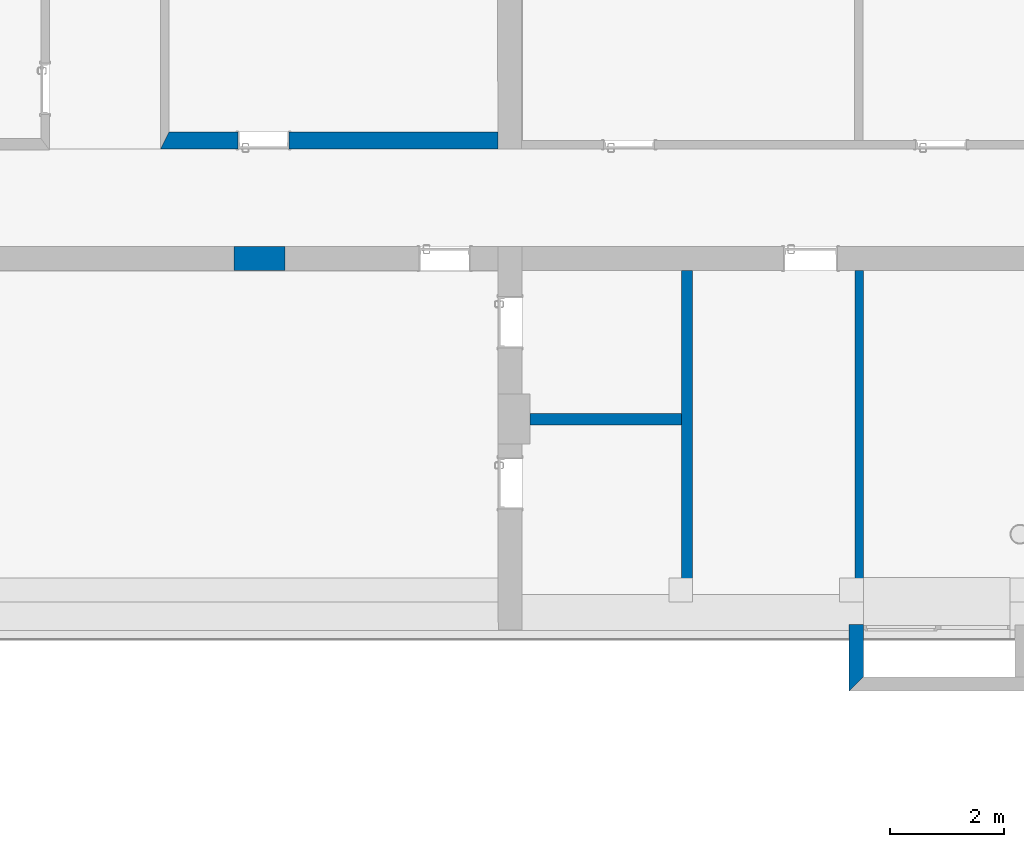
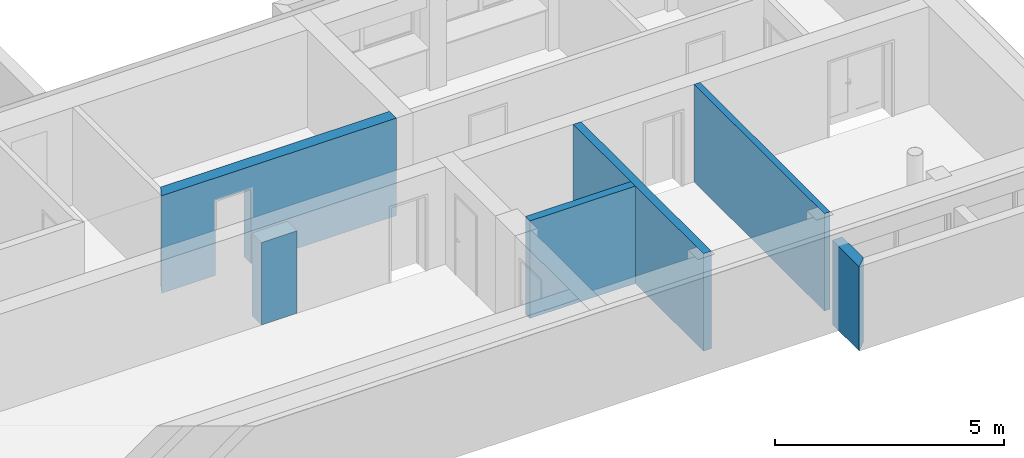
# One storey, part 16 of 127: 6 walls, 2 openings.
"""IFC2X3 building model written with IfcOpenShell, lengths in millimetres."""

from ifc_helpers import new_model, entity, si_unit, converted_unit, derived_unit, money_unit, direction, frame, origin_with_axes, origin_2d_with_axis, place, context, subcontext, project, spatial, polyline, rectangle, outline, extrude, material, layer, layer_set, layer_usage, type_object, element, save


model = new_model("IFC2X3")

# Units and contexts
model_context = context("Model", 3, precision=1e-05, world=origin_with_axes(), true_north=direction((0.0, 1.0)))
body_context = subcontext(model_context, "Body", "Model", "MODEL_VIEW")
ifc_project = project(units=[si_unit("LENGTHUNIT", "METRE", prefix="MILLI"), si_unit("AREAUNIT", "SQUARE_METRE"), si_unit("VOLUMEUNIT", "CUBIC_METRE"), converted_unit("PLANEANGLEUNIT", "DEGREE", entity("IfcPlaneAngleMeasure", 0.0174532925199), si_unit("PLANEANGLEUNIT", "RADIAN"), dimensions=[0, 0, 0, 0, 0, 0, 0]), si_unit("SOLIDANGLEUNIT", "STERADIAN"), money_unit("EUR"), converted_unit("TIMEUNIT", "Year", entity("IfcTimeMeasure", 31556926.0), si_unit("TIMEUNIT", "SECOND"), dimensions=[0, 0, 1, 0, 0, 0, 0]), si_unit("MASSUNIT", "GRAM", prefix="KILO"), si_unit("THERMODYNAMICTEMPERATUREUNIT", "DEGREE_CELSIUS"), si_unit("LUMINOUSINTENSITYUNIT", "LUMEN"), si_unit("ENERGYUNIT", "JOULE", prefix="MEGA"), derived_unit("THERMALCONDUCTANCEUNIT", [(si_unit("POWERUNIT", "WATT"), 1), (si_unit("LENGTHUNIT", "METRE"), -1), (si_unit("THERMODYNAMICTEMPERATUREUNIT", "KELVIN"), -1)]), derived_unit("SPECIFICHEATCAPACITYUNIT", [(si_unit("ENERGYUNIT", "JOULE"), 1), (si_unit("MASSUNIT", "GRAM", prefix="KILO"), -1), (si_unit("THERMODYNAMICTEMPERATUREUNIT", "KELVIN"), -1)]), derived_unit("MASSDENSITYUNIT", [(si_unit("MASSUNIT", "GRAM", prefix="KILO"), 1), (si_unit("VOLUMEUNIT", "CUBIC_METRE"), -1)])], contexts=[model_context])

# Site, building, storey
site_placement = place(None, origin_with_axes())
site = spatial("IfcSite", under=ifc_project, at=site_placement, Name="Site", CompositionType="ELEMENT")
building_placement = place(site_placement, origin_with_axes())
building = spatial("IfcBuilding", under=site, at=building_placement, Name="Building", CompositionType="ELEMENT")
storey_placement = place(building_placement, origin_with_axes())
storey = spatial("IfcBuildingStorey", under=building, at=storey_placement, Name="1 KORRUS", CompositionType="ELEMENT", Elevation=0.0)

# Wall, openings
ifc_material_1 = material(Name="Kivi -Ol.Olev Konstruktsioon")
ifc_layer_1 = layer(ifc_material_1, 300.0, ventilated="UNKNOWN")
ifc_layer_set_1 = layer_set([ifc_layer_1], Name="ol.olev ss 300")
ifc_layer_usage_1 = layer_usage(ifc_layer_set_1, "AXIS2", "POSITIVE", -300.0)
wall_type_1 = type_object("IfcWallType", Name="SW - 022", PredefinedType="NOTDEFINED")
wall_1_placement = place(storey_placement, frame((87732.1709145, 42721.226444, 0.0), z_axis=(0.0, 0.0, 1.0), x_axis=(-1.0, 0.0, 0.0)))
wall_1 = element("IfcWallStandardCase", 1, at=wall_1_placement, inside=storey, type_object=wall_type_1, material=ifc_layer_usage_1, Name="ol.olev ss 300", context=body_context, shape_type="SweptSolid", body=[
    extrude(outline(polyline([(0.365352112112, -300.0), (5777.23782502, -300.0), (5927.23782502, 0.0), (4.59364173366e-05, 0.0), (0.365352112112, -300.0)])), origin_with_axes(), (0.0, 0.0, 1.0), 2600.0),
])
opening_1_placement = place(wall_1_placement, frame((4117.90650266, 0.0, 0.0), z_axis=(0.0, 0.0, 1.0), x_axis=(1.0, 0.0, 0.0)))
element("IfcOpeningElement", 2, at=opening_1_placement, cuts=wall_1, Name="Siseuks * Door 22", context=body_context, shape_type="SweptSolid", body=[
    extrude(rectangle(XDim=900.0, YDim=2000.0, at=origin_2d_with_axis()), frame((0.0, -300.0, 1000.0), z_axis=(0.0, -1.0, 0.0), x_axis=(-1.0, 0.0, 0.0)), (0.0, 0.0, -1.0), 900.0),
    extrude(rectangle(XDim=974.0, YDim=2037.0, at=origin_2d_with_axis()), frame((0.0, -300.0, 1018.5), z_axis=(0.0, -1.0, 0.0), x_axis=(-1.0, 0.0, 0.0)), (0.0, 0.0, 1.0), 300.0),
    extrude(rectangle(XDim=974.0, YDim=2037.0, at=origin_2d_with_axis()), frame((0.0, 0.0, 1018.5), z_axis=(0.0, 1.0, 0.0), x_axis=(-1.0, 0.0, 0.0)), (0.0, 0.0, 1.0), 300.0),
])
opening_2_placement = place(wall_1_placement, frame((6904.13265274, 0.0, 0.0), z_axis=(0.0, 0.0, 1.0), x_axis=(1.0, 0.0, 0.0)))
element("IfcOpeningElement", 3, at=opening_2_placement, cuts=wall_1, Name="Background;  Objekti nimi: Simple Door Opening", context=body_context, shape_type="SweptSolid", body=[
    extrude(rectangle(XDim=1954.37892373, YDim=2100.0, at=origin_2d_with_axis()), frame((0.0, 0.0, 1050.0), z_axis=(0.0, -1.0, 0.0), x_axis=(1.0, 0.0, 0.0)), (0.0, 0.0, -1.0), 300.0),
    extrude(rectangle(XDim=1954.37892373, YDim=2100.0, at=origin_2d_with_axis()), frame((0.0, 0.0, 1050.0), z_axis=(0.0, 1.0, 0.0), x_axis=(1.0, 0.0, 0.0)), (0.0, 0.0, -1.0), 300.0),
])

# Walls
ifc_material_2 = material(Name="Kivi -  Uus Konstruktsioon")
ifc_layer_2 = layer(ifc_material_2, 420.0, ventilated="UNKNOWN")
ifc_layer_set_2 = layer_set([ifc_layer_2], Name="uus kinni ehitav sein 420")
ifc_layer_usage_2 = layer_usage(ifc_layer_set_2, "AXIS2", "POSITIVE", 0.0)
wall_type_2 = type_object("IfcWallType", Name="FIBO", PredefinedType="NOTDEFINED")
wall_2_placement = place(storey_placement, frame((83092.2238233, 40583.0649281, 0.0), z_axis=(0.0, 0.0, 1.0), x_axis=(1.0, 0.0, 0.0)))
element("IfcWallStandardCase", 4, at=wall_2_placement, inside=storey, type_object=wall_type_2, material=ifc_layer_usage_2, Name="uus kinni ehitav sein 420", context=body_context, shape_type="SweptSolid", body=[
    extrude(outline(polyline([(0.0, 0.0), (900.0, 0.0), (900.0, 420.0), (0.0, 420.0), (0.0, 0.0)])), origin_with_axes(), (0.0, 0.0, 1.0), 2200.0),
])
ifc_layer_3 = layer(ifc_material_1, 150.0, ventilated="UNKNOWN")
ifc_layer_set_3 = layer_set([ifc_layer_3], Name="ol.olev ss 150")
ifc_layer_usage_3 = layer_usage(ifc_layer_set_3, "AXIS2", "NEGATIVE", 0.0)
wall_type_3 = type_object("IfcWallType", Name="SW - 036", PredefinedType="NOTDEFINED")
wall_3_placement = place(storey_placement, frame((94157.3527847, 41003.0649281, 0.0), z_axis=(0.0, 0.0, 1.0), x_axis=(0.0, -1.0, 0.0)))
element("IfcWallStandardCase", 5, at=wall_3_placement, inside=storey, type_object=wall_type_3, material=ifc_layer_usage_3, Name="ol.olev ss 150", context=body_context, shape_type="SweptSolid", body=[
    extrude(outline(polyline([(420.0, -150.0), (6110.97869474, -150.0), (6110.96848071, 0.0), (420.0, 0.0), (420.0, -150.0)])), origin_with_axes(), (0.0, 0.0, 1.0), 2600.0),
])
ifc_layer_4 = layer(ifc_material_1, 200.0, ventilated="UNKNOWN")
ifc_layer_set_4 = layer_set([ifc_layer_4], Name="ol.olev ss 200")
ifc_layer_usage_4 = layer_usage(ifc_layer_set_4, "AXIS2", "NEGATIVE", 0.0)
wall_4_placement = place(storey_placement, frame((91157.3527847, 41003.0649281, 0.0), z_axis=(0.0, 0.0, 1.0), x_axis=(0.0, -1.0, 0.0)))
element("IfcWallStandardCase", 6, at=wall_4_placement, inside=storey, type_object=wall_type_3, material=ifc_layer_usage_4, Name="ol.olev ss 200", context=body_context, shape_type="SweptSolid", body=[
    extrude(outline(polyline([(420.0, -200.0), (6111.18637996, -200.0), (6111.17276126, 0.0), (420.0, 0.0), (420.0, -200.0)])), origin_with_axes(), (0.0, 0.0, 1.0), 2600.0),
])
ifc_layer_usage_5 = layer_usage(ifc_layer_set_4, "AXIS2", "POSITIVE", 0.0)
wall_5_placement = place(storey_placement, frame((91157.3527847, 38067.6226794, 0.0), z_axis=(0.0, 0.0, 1.0), x_axis=(-1.0, 1.08545813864e-08, 0.0)))
element("IfcWallStandardCase", 7, at=wall_5_placement, inside=storey, type_object=wall_type_3, material=ifc_layer_usage_5, Name="ol.olev ss 200", context=body_context, shape_type="SweptSolid", body=[
    extrude(outline(polyline([(200.0, 0.0), (2859.93250831, 0.0), (2859.93250611, 200.0), (199.999997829, 200.0), (200.0, 0.0)])), origin_with_axes(), (0.0, 0.0, 1.0), 2600.0),
])
ifc_material_3 = material(Name="Kivi - Ol.Olev Konstruktsioon")
ifc_layer_5 = layer(ifc_material_3, 250.0, ventilated="UNKNOWN")
ifc_layer_set_5 = layer_set([ifc_layer_5], Name="Ol.olve tugimüür 250")
ifc_layer_usage_6 = layer_usage(ifc_layer_set_5, "AXIS2", "POSITIVE", -250.0)
wall_type_4 = type_object("IfcWallType", Name="SW - 029", PredefinedType="NOTDEFINED")
wall_6_placement = place(storey_placement, frame((94157.3458046, 34364.608995, 0.0), z_axis=(0.0, 0.0, 1.0), x_axis=(6.80935165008e-05, -0.999999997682, 0.0)))
element("IfcWallStandardCase", 8, at=wall_6_placement, inside=storey, type_object=wall_type_4, material=ifc_layer_usage_6, Name="Ol.olve tugimüür 250", context=body_context, shape_type="SweptSolid", body=[
    extrude(outline(polyline([(0.0, -250.0), (1172.51254928, -250.0), (922.512549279, 0.0), (0.0, 0.0), (0.0, -250.0)])), origin_with_axes(), (0.0, 0.0, 1.0), 2250.0),
])

save(model, "model.ifc")
